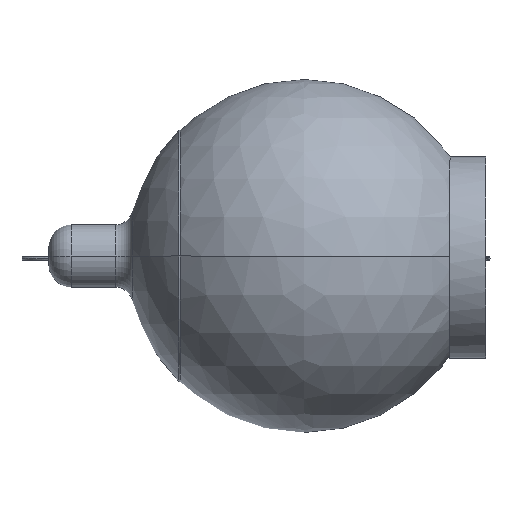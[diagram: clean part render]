
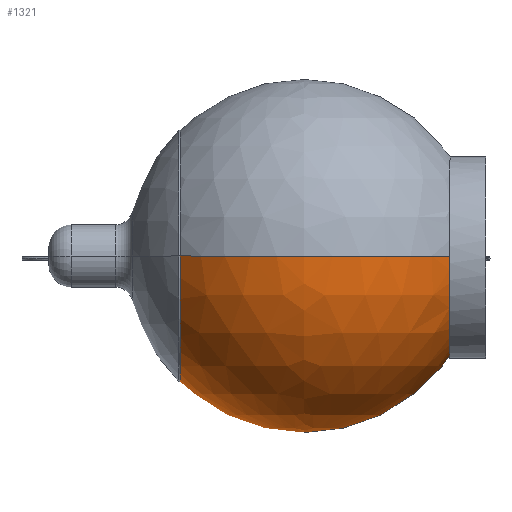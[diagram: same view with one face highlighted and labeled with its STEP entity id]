
A CAD part, left-side view. The second image highlights one B-rep face of the part: STEP entity #1321.
In plain terms, the highlighted spherical face has radius 175 mm.
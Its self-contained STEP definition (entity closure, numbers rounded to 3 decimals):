
#5 = DIRECTION ( 'NONE',  ( 0., 0., 1. ) ) ;
#48 = AXIS2_PLACEMENT_3D ( 'NONE', #320, #334, #1075 ) ;
#101 = DIRECTION ( 'NONE',  ( -1., 0., 0. ) ) ;
#140 = CIRCLE ( 'NONE', #1154, 124.444 ) ;
#145 = DIRECTION ( 'NONE',  ( 0., 0., -1. ) ) ;
#148 = DIRECTION ( 'NONE',  ( 1., 0., 0. ) ) ;
#205 = VERTEX_POINT ( 'NONE', #560 ) ;
#264 = ORIENTED_EDGE ( 'NONE', *, *, #1755, .T. ) ;
#320 = CARTESIAN_POINT ( 'NONE',  ( -33.732, -159.578, 1.701 ) ) ;
#332 = DIRECTION ( 'NONE',  ( 1., 0., 0. ) ) ;
#334 = DIRECTION ( 'NONE',  ( 0., 1., 0. ) ) ;
#473 = CIRCLE ( 'NONE', #48, 99.045 ) ;
#474 = DIRECTION ( 'NONE',  ( 0., -1., 0. ) ) ;
#535 = CARTESIAN_POINT ( 'NONE',  ( 65.313, -159.578, 1.701 ) ) ;
#560 = CARTESIAN_POINT ( 'NONE',  ( -158.175, 107.736, 1.701 ) ) ;
#705 = ORIENTED_EDGE ( 'NONE', *, *, #959, .F. ) ;
#792 = VERTEX_POINT ( 'NONE', #535 ) ;
#837 = CIRCLE ( 'NONE', #1406, 175. ) ;
#856 = ORIENTED_EDGE ( 'NONE', *, *, #1540, .T. ) ;
#959 = EDGE_CURVE ( 'NONE', #205, #1452, #837, .T. ) ;
#1071 = CARTESIAN_POINT ( 'NONE',  ( -33.732, -15.304, 1.701 ) ) ;
#1075 = DIRECTION ( 'NONE',  ( 0., 0., 1. ) ) ;
#1086 = SPHERICAL_SURFACE ( 'NONE', #1561, 175. ) ;
#1098 = VERTEX_POINT ( 'NONE', #1389 ) ;
#1154 = AXIS2_PLACEMENT_3D ( 'NONE', #1169, #474, #332 ) ;
#1169 = CARTESIAN_POINT ( 'NONE',  ( -33.732, 107.736, 1.701 ) ) ;
#1174 = ORIENTED_EDGE ( 'NONE', *, *, #1388, .T. ) ;
#1187 = CIRCLE ( 'NONE', #1270, 175. ) ;
#1211 = FACE_OUTER_BOUND ( 'NONE', #1379, .T. ) ;
#1222 = CARTESIAN_POINT ( 'NONE',  ( -33.732, -15.304, 1.701 ) ) ;
#1270 = AXIS2_PLACEMENT_3D ( 'NONE', #1629, #1486, #101 ) ;
#1321 = ADVANCED_FACE ( 'NONE', ( #1211 ), #1086, .T. ) ;
#1379 = EDGE_LOOP ( 'NONE', ( #1174, #856, #264, #705 ) ) ;
#1388 = EDGE_CURVE ( 'NONE', #205, #1098, #140, .T. ) ;
#1389 = CARTESIAN_POINT ( 'NONE',  ( 90.712, 107.736, 1.701 ) ) ;
#1406 = AXIS2_PLACEMENT_3D ( 'NONE', #1222, #5, #148 ) ;
#1452 = VERTEX_POINT ( 'NONE', #1603 ) ;
#1486 = DIRECTION ( 'NONE',  ( 0., 0., -1. ) ) ;
#1521 = DIRECTION ( 'NONE',  ( -1., 0., 0. ) ) ;
#1540 = EDGE_CURVE ( 'NONE', #1098, #792, #1187, .T. ) ;
#1561 = AXIS2_PLACEMENT_3D ( 'NONE', #1071, #145, #1521 ) ;
#1603 = CARTESIAN_POINT ( 'NONE',  ( -132.777, -159.578, 1.701 ) ) ;
#1629 = CARTESIAN_POINT ( 'NONE',  ( -33.732, -15.304, 1.701 ) ) ;
#1755 = EDGE_CURVE ( 'NONE', #792, #1452, #473, .T. ) ;
